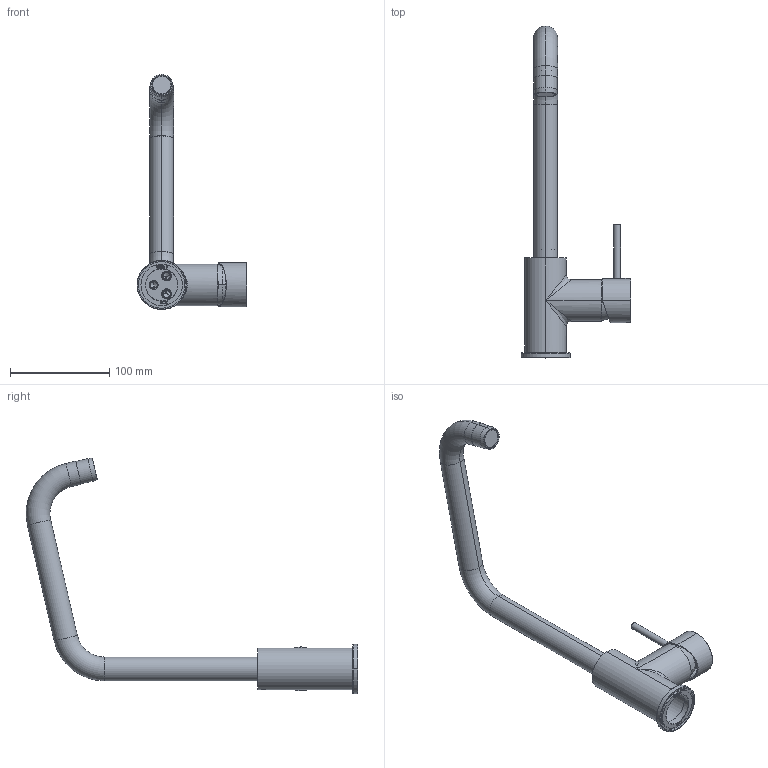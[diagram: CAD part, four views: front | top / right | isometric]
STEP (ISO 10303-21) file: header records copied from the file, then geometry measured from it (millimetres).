
FILE_DESCRIPTION((''),'2;1');
FILE_NAME('F3067_1_FILE_3D','2016-05-11T',('ivanv'),(''),'CREO PARAMETRIC BY PTC INC, 2015290','CREO PARAMETRIC BY PTC INC, 2015290','');
FILE_SCHEMA(('CONFIG_CONTROL_DESIGN'));
Length unit declared in the file: millimetre
Products named in the file (1): F3067_1_FILE_3D
Bounding box: 111 x 334.92 x 237.53 mm (x, y, z)
Volume: 171687 mm3; surface area: 113892.8 mm2
Topology: 3 solids, 3 shells, 1029 faces, 2696 edges, 1701 vertices
Faces by surface type: plane 595, cylinder 156, bspline 89, cone 67, torus 60, extrusion 58, sphere 4
Entity records: 37978 total; most frequent: CARTESIAN_POINT 13432, ORIENTED_EDGE 5356, DIRECTION 4601, EDGE_CURVE 2678, VECTOR 1915, LINE 1857, VERTEX_POINT 1701, AXIS2_PLACEMENT_3D 1343
